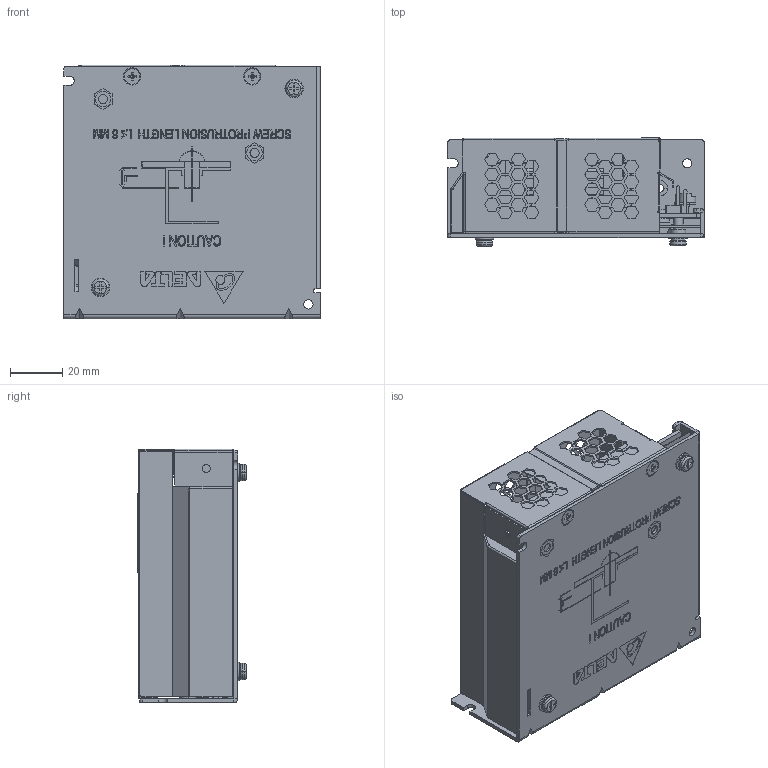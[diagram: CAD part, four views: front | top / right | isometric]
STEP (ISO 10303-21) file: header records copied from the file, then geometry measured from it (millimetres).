
FILE_DESCRIPTION((''),'2;1');
FILE_NAME('PMH-24V50WCAA_ASM','2017-06-21T',('Yuthaphichai.Chan'),(''),'PRO/ENGINEER BY PARAMETRIC TECHNOLOGY CORPORATION, 2010180','PRO/ENGINEER BY PARAMETRIC TECHNOLOGY CORPORATION, 2010180','');
FILE_SCHEMA(('CONFIG_CONTROL_DESIGN','SHAPE_APPEARANCE_LAYERS_GROUPS'));
Products named in the file (23): 331609650101_3; 331609650101_A_STUD_1; 331609650101_ASM_3_ASM; 331605710101_3; INSULATOR-CHASSIS_50; 326203870304_1; 3268095800_1; 295_PWB_9; EE_VR510_A_BODY_1; EE_VR510_A_LEG_1; EE_VR510_ASM_35_ASM; EE_LED350_2301151506_1; 3076432931; 3071121000; ASSY_PWB_PMH-24V50WCAA_ASM_85_ASM; 3103301000_1; 3100001000_1; 3460405500_1; 3100000400_1; 3202315200_1; SYSTEMSCREW_2; PMH-24V50WCAA_ASM_114_ASM; PMH-24V50WCAA_ASM
Assembly tree (30 placements, depth 5):
  PMH-24V50WCAA_ASM
    PMH-24V50WCAA_ASM_114_ASM
      331609650101_ASM_3_ASM
        331609650101_3
        331609650101_A_STUD_1  x2
      331605710101_3
      INSULATOR-CHASSIS_50
      326203870304_1
      3268095800_1
      ASSY_PWB_PMH-24V50WCAA_ASM_85_ASM
        295_PWB_9
        EE_VR510_ASM_35_ASM
          EE_VR510_A_BODY_1
          EE_VR510_A_LEG_1  x3
        EE_LED350_2301151506_1
        3076432931
        3071121000
      3103301000_1  x2
      3100001000_1
      3460405500_1
      3100000400_1  x4
      3202315200_1
      SYSTEMSCREW_2  x2
Bounding box: 98 x 41.35 x 97.05 mm (x, y, z)
Volume: 49457.3 mm3; surface area: 105286 mm2
Topology: 26 solids, 26 shells, 4498 faces, 12064 edges, 7577 vertices
Faces by surface type: plane 3202, extrusion 573, cylinder 466, bspline 157, cone 84, torus 16
Entity records: 167502 total; most frequent: CARTESIAN_POINT 30299, ORIENTED_EDGE 22444, DIRECTION 18558, EDGE_CURVE 11222, PRESENTATION_STYLE_ASSIGNMENT 11044, STYLED_ITEM 10886, CURVE_STYLE 10872, VECTOR 9620
